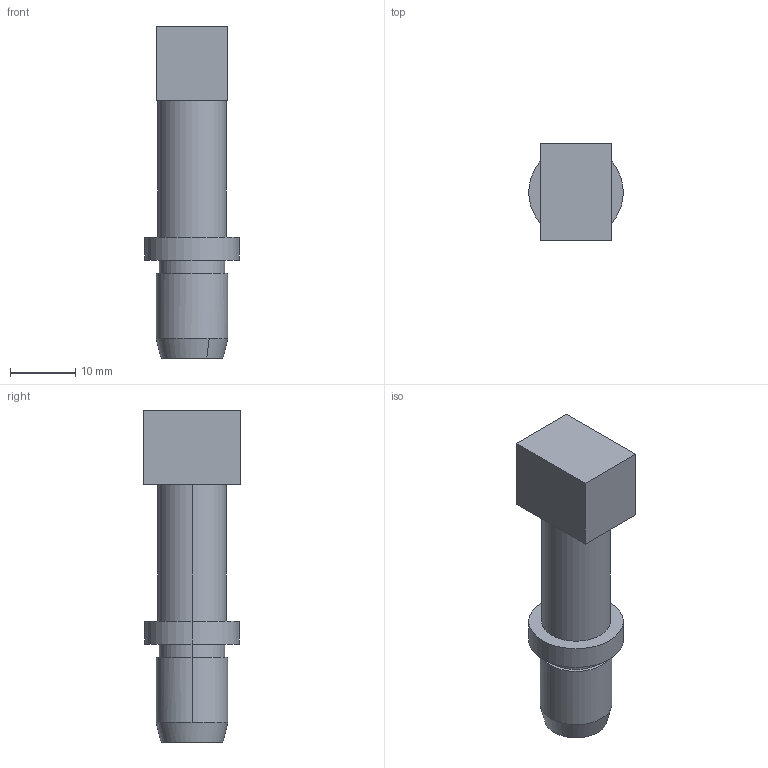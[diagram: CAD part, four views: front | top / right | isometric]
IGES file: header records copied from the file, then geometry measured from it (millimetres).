
Start section: START RECORD GO HERE.
Global section: file name: Sensor_body.igs; native system: DASSAULT SYSTEMES CATIA V5 R21 - www.3ds.com; preprocessor: CATIA Version 5 Release 21 SP 6 ; author: ilya; organization: KAA-PC; date: 20161106.143308; units: millimetre
Bounding box: 14.5 x 15 x 50.9 mm (x, y, z)
Surface area: 2448.9 mm2 (no closed solid volume)
Topology: 0 solids, 0 shells, 20 faces, 84 edges, 84 vertices
Faces by surface type: plane 10, revolution 10
